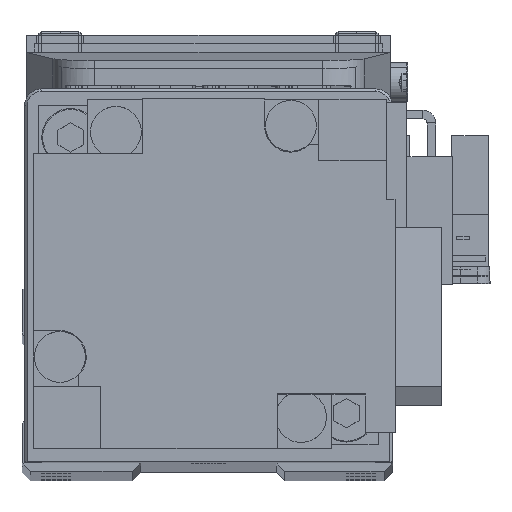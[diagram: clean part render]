
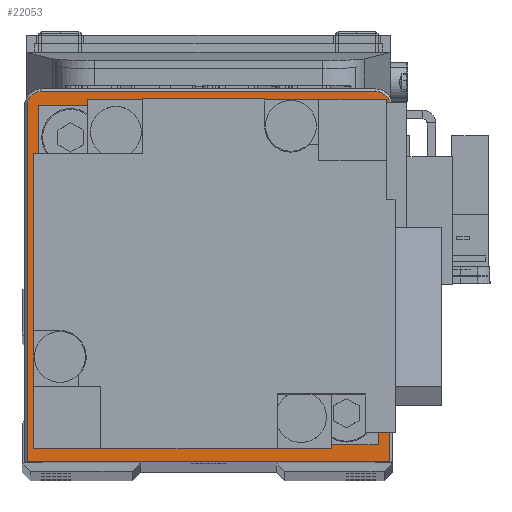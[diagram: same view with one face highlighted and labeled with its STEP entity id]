
A CAD part, top view. The second image highlights one B-rep face of the part: STEP entity #22053.
In plain terms, the highlighted planar face has unit normal (0, 0, 1).
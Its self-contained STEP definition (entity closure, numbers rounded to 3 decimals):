
#748 = DIRECTION ( 'NONE',  ( 1., 0., 0. ) ) ;
#1769 = LINE ( 'NONE', #13500, #10508 ) ;
#2257 = EDGE_LOOP ( 'NONE', ( #5682, #12472 ) ) ;
#2578 = VERTEX_POINT ( 'NONE', #6581 ) ;
#2875 = VECTOR ( 'NONE', #35790, 1000. ) ;
#3168 = DIRECTION ( 'NONE',  ( 0., 1., 0. ) ) ;
#4035 = EDGE_CURVE ( 'NONE', #22643, #4889, #10192, .T. ) ;
#4339 = CARTESIAN_POINT ( 'NONE',  ( 19.7, 21.7, 26.5 ) ) ;
#4553 = CARTESIAN_POINT ( 'NONE',  ( 0., 0., 26.5 ) ) ;
#4676 = CARTESIAN_POINT ( 'NONE',  ( -19.7, 20., 26.5 ) ) ;
#4889 = VERTEX_POINT ( 'NONE', #17153 ) ;
#5469 = CIRCLE ( 'NONE', #26987, 1.7 ) ;
#5682 = ORIENTED_EDGE ( 'NONE', *, *, #4035, .F. ) ;
#5891 = EDGE_CURVE ( 'NONE', #22545, #28126, #17815, .T. ) ;
#6581 = CARTESIAN_POINT ( 'NONE',  ( -19.7, 21.7, 26.5 ) ) ;
#6761 = CARTESIAN_POINT ( 'NONE',  ( -21.4, 20., 26.5 ) ) ;
#6808 = DIRECTION ( 'NONE',  ( 0., -1., 0. ) ) ;
#7690 = CARTESIAN_POINT ( 'NONE',  ( 0., 0., 26.5 ) ) ;
#7782 = DIRECTION ( 'NONE',  ( 1., 0., 0. ) ) ;
#8208 = ORIENTED_EDGE ( 'NONE', *, *, #28590, .T. ) ;
#8849 = CIRCLE ( 'NONE', #30342, 1.7 ) ;
#9079 = EDGE_CURVE ( 'NONE', #21057, #2578, #12387, .T. ) ;
#10192 = CIRCLE ( 'NONE', #31672, 10. ) ;
#10508 = VECTOR ( 'NONE', #25245, 1000. ) ;
#10570 = FACE_OUTER_BOUND ( 'NONE', #25747, .T. ) ;
#12387 = LINE ( 'NONE', #24137, #2875 ) ;
#12472 = ORIENTED_EDGE ( 'NONE', *, *, #17994, .F. ) ;
#13500 = CARTESIAN_POINT ( 'NONE',  ( -21.7, -22., 26.5 ) ) ;
#15365 = CARTESIAN_POINT ( 'NONE',  ( 0., 0., 26.5 ) ) ;
#16325 = DIRECTION ( 'NONE',  ( 0., 0., 1. ) ) ;
#16448 = DIRECTION ( 'NONE',  ( 0., 0., 1. ) ) ;
#17153 = CARTESIAN_POINT ( 'NONE',  ( 10., 0., 26.5 ) ) ;
#17815 = LINE ( 'NONE', #29508, #24499 ) ;
#17994 = EDGE_CURVE ( 'NONE', #4889, #22643, #37652, .T. ) ;
#18224 = VECTOR ( 'NONE', #6808, 1000. ) ;
#19187 = CARTESIAN_POINT ( 'NONE',  ( 21.4, 20., 26.5 ) ) ;
#19464 = DIRECTION ( 'NONE',  ( 0., 0., 1. ) ) ;
#19919 = ORIENTED_EDGE ( 'NONE', *, *, #34885, .T. ) ;
#20552 = CARTESIAN_POINT ( 'NONE',  ( -10., 0., 26.5 ) ) ;
#20918 = AXIS2_PLACEMENT_3D ( 'NONE', #7690, #19464, #31144 ) ;
#21057 = VERTEX_POINT ( 'NONE', #4339 ) ;
#21159 = AXIS2_PLACEMENT_3D ( 'NONE', #15365, #27087, #748 ) ;
#21477 = LINE ( 'NONE', #33139, #18224 ) ;
#22053 = ADVANCED_FACE ( 'NONE', ( #10570, #22353 ), #34001, .T. ) ;
#22222 = ORIENTED_EDGE ( 'NONE', *, *, #27128, .T. ) ;
#22353 = FACE_BOUND ( 'NONE', #2257, .T. ) ;
#22453 = CARTESIAN_POINT ( 'NONE',  ( 19.7, 20., 26.5 ) ) ;
#22545 = VERTEX_POINT ( 'NONE', #34530 ) ;
#22643 = VERTEX_POINT ( 'NONE', #20552 ) ;
#24137 = CARTESIAN_POINT ( 'NONE',  ( -19.7, 21.7, 26.5 ) ) ;
#24499 = VECTOR ( 'NONE', #3168, 1000. ) ;
#24930 = EDGE_CURVE ( 'NONE', #28126, #21057, #5469, .T. ) ;
#25245 = DIRECTION ( 'NONE',  ( 1., 0., 0. ) ) ;
#25747 = EDGE_LOOP ( 'NONE', ( #22222, #34526, #35793, #32542, #8208, #19919 ) ) ;
#26692 = CARTESIAN_POINT ( 'NONE',  ( -21.4, -22., 26.5 ) ) ;
#26987 = AXIS2_PLACEMENT_3D ( 'NONE', #22453, #34107, #7782 ) ;
#27087 = DIRECTION ( 'NONE',  ( 0., 0., 1. ) ) ;
#27128 = EDGE_CURVE ( 'NONE', #29205, #22545, #1769, .T. ) ;
#28038 = DIRECTION ( 'NONE',  ( 1., 0., 0. ) ) ;
#28126 = VERTEX_POINT ( 'NONE', #19187 ) ;
#28155 = DIRECTION ( 'NONE',  ( 1., 0., 0. ) ) ;
#28590 = EDGE_CURVE ( 'NONE', #2578, #28924, #8849, .T. ) ;
#28924 = VERTEX_POINT ( 'NONE', #6761 ) ;
#29205 = VERTEX_POINT ( 'NONE', #26692 ) ;
#29508 = CARTESIAN_POINT ( 'NONE',  ( 21.4, 20., 26.5 ) ) ;
#30342 = AXIS2_PLACEMENT_3D ( 'NONE', #4676, #16448, #28155 ) ;
#31144 = DIRECTION ( 'NONE',  ( 1., 0., 0. ) ) ;
#31672 = AXIS2_PLACEMENT_3D ( 'NONE', #4553, #16325, #28038 ) ;
#32542 = ORIENTED_EDGE ( 'NONE', *, *, #9079, .T. ) ;
#33139 = CARTESIAN_POINT ( 'NONE',  ( -21.4, -22., 26.5 ) ) ;
#34001 = PLANE ( 'NONE',  #20918 ) ;
#34107 = DIRECTION ( 'NONE',  ( 0., 0., 1. ) ) ;
#34526 = ORIENTED_EDGE ( 'NONE', *, *, #5891, .T. ) ;
#34530 = CARTESIAN_POINT ( 'NONE',  ( 21.4, -22., 26.5 ) ) ;
#34885 = EDGE_CURVE ( 'NONE', #28924, #29205, #21477, .T. ) ;
#35790 = DIRECTION ( 'NONE',  ( -1., 0., 0. ) ) ;
#35793 = ORIENTED_EDGE ( 'NONE', *, *, #24930, .T. ) ;
#37652 = CIRCLE ( 'NONE', #21159, 10. ) ;
